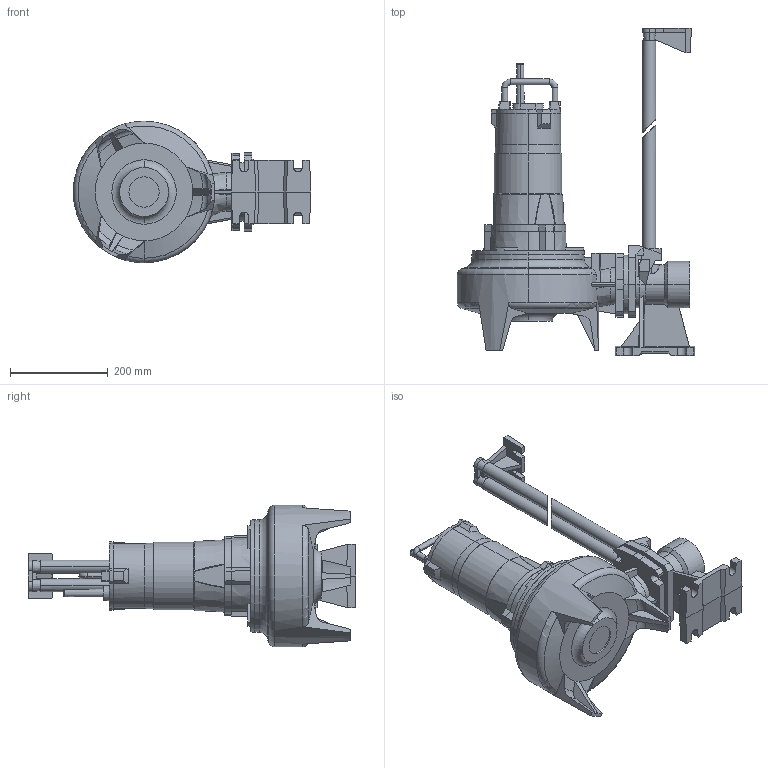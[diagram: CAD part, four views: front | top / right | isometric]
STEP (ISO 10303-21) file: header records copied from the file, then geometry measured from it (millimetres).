
FILE_DESCRIPTION (( 'STEP AP203' ), '1' );
FILE_NAME ('65FWC-V-54... COUPLING SYSTEM.STEP', '2025-03-20T15:17:00', ( '' ), ( '' ), 'SwSTEP 2.0', 'SolidWorks 2023', '' );
FILE_SCHEMA (( 'CONFIG_CONTROL_DESIGN' ));
Length unit declared in the file: millimetre
Products named in the file (1): 65FWC-V-54... COUPLING SYSTEM
Bounding box: 486.27 x 670.22 x 290 mm (x, y, z)
Volume: 14719995.6 mm3; surface area: 814459.9 mm2
Topology: 2 solids, 4 shells, 516 faces, 1367 edges, 882 vertices
Faces by surface type: plane 283, cylinder 109, cone 78, torus 29, bspline 17
Entity records: 17345 total; most frequent: CARTESIAN_POINT 4903, ORIENTED_EDGE 2734, DIRECTION 2432, EDGE_CURVE 1367, VERTEX_POINT 882, AXIS2_PLACEMENT_3D 871, LINE 690, VECTOR 690
